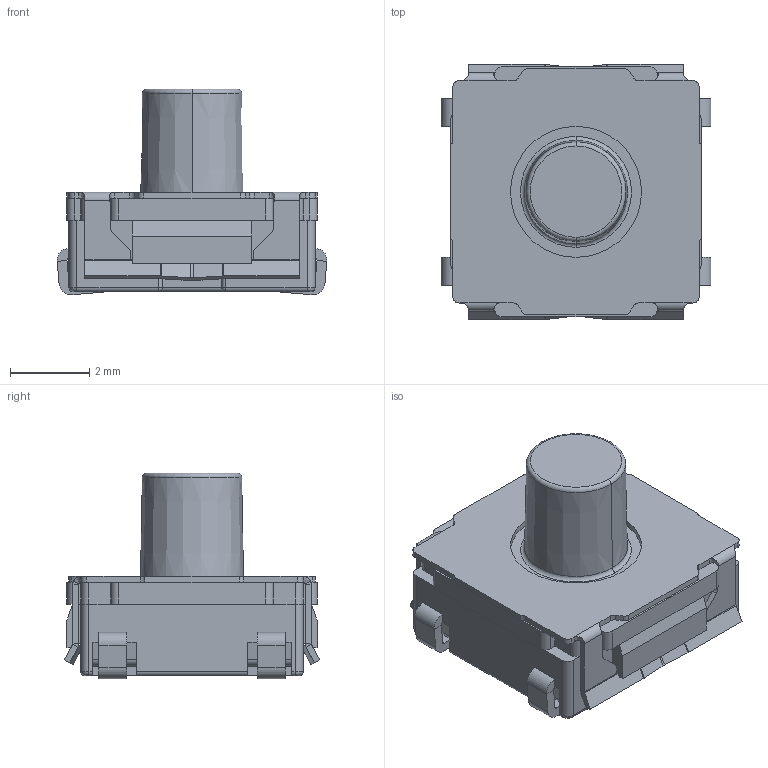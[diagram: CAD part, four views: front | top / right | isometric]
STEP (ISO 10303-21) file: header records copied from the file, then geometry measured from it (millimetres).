
FILE_DESCRIPTION (( 'STEP AP214' ), '1' );
FILE_NAME ('SKRAAQ.STEP', '2009-07-21T08:18:38', ( '' ), ( '' ), 'SwSTEP 2.0', 'SolidWorks 2007', '' );
FILE_SCHEMA (( 'AUTOMOTIVE_DESIGN' ));
Length unit declared in the file: millimetre
Products named in the file (1): SKRAAQ
Bounding box: 6.8 x 6.43 x 5.18 mm (x, y, z)
Volume: 99.5 mm3; surface area: 211.3 mm2
Topology: 1 solids, 1 shells, 392 faces, 1064 edges, 652 vertices
Faces by surface type: plane 228, cylinder 138, bspline 12, torus 8, sphere 4, cone 2
Entity records: 15378 total; most frequent: CARTESIAN_POINT 2525, ORIENTED_EDGE 2120, DIRECTION 1994, EDGE_CURVE 1060, VECTOR 712, LINE 712, VERTEX_POINT 652, AXIS2_PLACEMENT_3D 641
